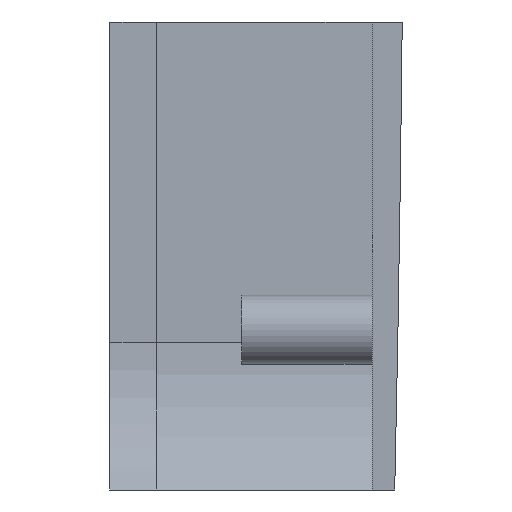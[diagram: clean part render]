
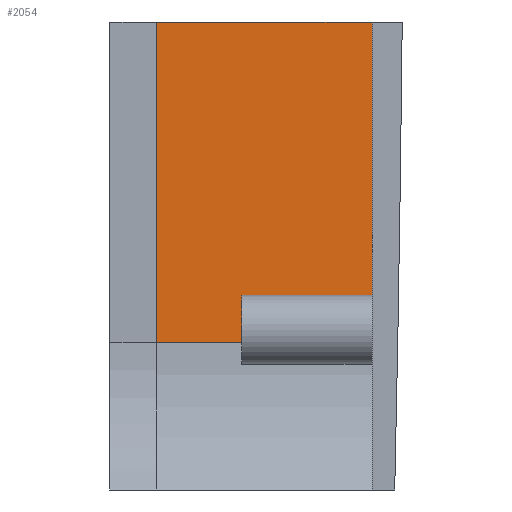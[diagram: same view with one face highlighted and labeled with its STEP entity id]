
A CAD part, left-side view. The second image highlights one B-rep face of the part: STEP entity #2054.
In plain terms, the highlighted planar face has unit normal (-1, 0, 0).
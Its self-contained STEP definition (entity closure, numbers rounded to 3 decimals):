
#144 = PLANE('',#145);
#145 = AXIS2_PLACEMENT_3D('',#146,#147,#148);
#146 = CARTESIAN_POINT('',(36.,-30.,-29.));
#147 = DIRECTION('',(0.,0.,1.));
#148 = DIRECTION('',(1.,0.,0.));
#549 = PLANE('',#550);
#550 = AXIS2_PLACEMENT_3D('',#551,#552,#553);
#551 = CARTESIAN_POINT('',(0.,-4.7,0.));
#552 = DIRECTION('',(0.,-1.,0.));
#553 = DIRECTION('',(1.,0.,0.));
#575 = CYLINDRICAL_SURFACE('',#576,17.2);
#576 = AXIS2_PLACEMENT_3D('',#577,#578,#579);
#577 = CARTESIAN_POINT('',(34.,-3.2,-55.));
#578 = DIRECTION('',(0.,1.,0.));
#579 = DIRECTION('',(1.,0.,0.));
#599 = PLANE('',#600);
#600 = AXIS2_PLACEMENT_3D('',#601,#602,#603);
#601 = CARTESIAN_POINT('',(-150.,-22.2,-200.));
#602 = DIRECTION('',(0.,1.,0.));
#603 = DIRECTION('',(0.,0.,1.));
#993 = VERTEX_POINT('',#994);
#994 = CARTESIAN_POINT('',(51.2,-4.7,-29.));
#1013 = EDGE_CURVE('',#1014,#993,#1016,.T.);
#1014 = VERTEX_POINT('',#1015);
#1015 = CARTESIAN_POINT('',(51.2,-22.2,-29.));
#1016 = SURFACE_CURVE('',#1017,(#1021,#1027),.PCURVE_S1.);
#1017 = LINE('',#1018,#1019);
#1018 = CARTESIAN_POINT('',(51.2,-16.6,-29.));
#1019 = VECTOR('',#1020,1.);
#1020 = DIRECTION('',(0.,1.,-0.));
#1021 = PCURVE('',#144,#1022);
#1022 = DEFINITIONAL_REPRESENTATION('',(#1023),#1026);
#1023 = B_SPLINE_CURVE_WITH_KNOTS('',1,(#1024,#1025),.UNSPECIFIED.,.F.,
  .F.,(2,2),(-5.6,11.9),.PIECEWISE_BEZIER_KNOTS.);
#1024 = CARTESIAN_POINT('',(15.2,7.8));
#1025 = CARTESIAN_POINT('',(15.2,25.3));
#1026 = ( GEOMETRIC_REPRESENTATION_CONTEXT(2) 
PARAMETRIC_REPRESENTATION_CONTEXT() REPRESENTATION_CONTEXT('2D SPACE',''
  ) );
#1027 = PCURVE('',#1028,#1033);
#1028 = PLANE('',#1029);
#1029 = AXIS2_PLACEMENT_3D('',#1030,#1031,#1032);
#1030 = CARTESIAN_POINT('',(51.2,-3.2,-55.));
#1031 = DIRECTION('',(-1.,0.,0.));
#1032 = DIRECTION('',(0.,0.,1.));
#1033 = DEFINITIONAL_REPRESENTATION('',(#1034),#1037);
#1034 = B_SPLINE_CURVE_WITH_KNOTS('',1,(#1035,#1036),.UNSPECIFIED.,.F.,
  .F.,(2,2),(-5.6,11.9),.PIECEWISE_BEZIER_KNOTS.);
#1035 = CARTESIAN_POINT('',(26.,-19.));
#1036 = CARTESIAN_POINT('',(26.,-1.5));
#1037 = ( GEOMETRIC_REPRESENTATION_CONTEXT(2) 
PARAMETRIC_REPRESENTATION_CONTEXT() REPRESENTATION_CONTEXT('2D SPACE',''
  ) );
#1462 = VERTEX_POINT('',#1463);
#1463 = CARTESIAN_POINT('',(51.2,-22.2,-55.));
#1488 = EDGE_CURVE('',#1462,#1014,#1489,.T.);
#1489 = SURFACE_CURVE('',#1490,(#1494,#1501),.PCURVE_S1.);
#1490 = LINE('',#1491,#1492);
#1491 = CARTESIAN_POINT('',(51.2,-22.2,-127.5));
#1492 = VECTOR('',#1493,1.);
#1493 = DIRECTION('',(0.,0.,1.));
#1494 = PCURVE('',#599,#1495);
#1495 = DEFINITIONAL_REPRESENTATION('',(#1496),#1500);
#1496 = LINE('',#1497,#1498);
#1497 = CARTESIAN_POINT('',(72.5,201.2));
#1498 = VECTOR('',#1499,1.);
#1499 = DIRECTION('',(1.,0.));
#1500 = ( GEOMETRIC_REPRESENTATION_CONTEXT(2) 
PARAMETRIC_REPRESENTATION_CONTEXT() REPRESENTATION_CONTEXT('2D SPACE',''
  ) );
#1501 = PCURVE('',#1028,#1502);
#1502 = DEFINITIONAL_REPRESENTATION('',(#1503),#1507);
#1503 = LINE('',#1504,#1505);
#1504 = CARTESIAN_POINT('',(-72.5,-19.));
#1505 = VECTOR('',#1506,1.);
#1506 = DIRECTION('',(1.,0.));
#1507 = ( GEOMETRIC_REPRESENTATION_CONTEXT(2) 
PARAMETRIC_REPRESENTATION_CONTEXT() REPRESENTATION_CONTEXT('2D SPACE',''
  ) );
#1547 = EDGE_CURVE('',#1548,#1462,#1550,.T.);
#1548 = VERTEX_POINT('',#1549);
#1549 = CARTESIAN_POINT('',(51.2,-4.7,-55.));
#1550 = SURFACE_CURVE('',#1551,(#1555,#1562),.PCURVE_S1.);
#1551 = LINE('',#1552,#1553);
#1552 = CARTESIAN_POINT('',(51.2,-3.2,-55.));
#1553 = VECTOR('',#1554,1.);
#1554 = DIRECTION('',(0.,-1.,0.));
#1555 = PCURVE('',#575,#1556);
#1556 = DEFINITIONAL_REPRESENTATION('',(#1557),#1561);
#1557 = LINE('',#1558,#1559);
#1558 = CARTESIAN_POINT('',(0.,0.));
#1559 = VECTOR('',#1560,1.);
#1560 = DIRECTION('',(-0.,-1.));
#1561 = ( GEOMETRIC_REPRESENTATION_CONTEXT(2) 
PARAMETRIC_REPRESENTATION_CONTEXT() REPRESENTATION_CONTEXT('2D SPACE',''
  ) );
#1562 = PCURVE('',#1028,#1563);
#1563 = DEFINITIONAL_REPRESENTATION('',(#1564),#1568);
#1564 = LINE('',#1565,#1566);
#1565 = CARTESIAN_POINT('',(0.,0.));
#1566 = VECTOR('',#1567,1.);
#1567 = DIRECTION('',(0.,-1.));
#1568 = ( GEOMETRIC_REPRESENTATION_CONTEXT(2) 
PARAMETRIC_REPRESENTATION_CONTEXT() REPRESENTATION_CONTEXT('2D SPACE',''
  ) );
#1631 = EDGE_CURVE('',#1548,#993,#1632,.T.);
#1632 = SURFACE_CURVE('',#1633,(#1637,#1644),.PCURVE_S1.);
#1633 = LINE('',#1634,#1635);
#1634 = CARTESIAN_POINT('',(51.2,-4.7,-27.5));
#1635 = VECTOR('',#1636,1.);
#1636 = DIRECTION('',(0.,0.,1.));
#1637 = PCURVE('',#549,#1638);
#1638 = DEFINITIONAL_REPRESENTATION('',(#1639),#1643);
#1639 = LINE('',#1640,#1641);
#1640 = CARTESIAN_POINT('',(51.2,-27.5));
#1641 = VECTOR('',#1642,1.);
#1642 = DIRECTION('',(0.,1.));
#1643 = ( GEOMETRIC_REPRESENTATION_CONTEXT(2) 
PARAMETRIC_REPRESENTATION_CONTEXT() REPRESENTATION_CONTEXT('2D SPACE',''
  ) );
#1644 = PCURVE('',#1028,#1645);
#1645 = DEFINITIONAL_REPRESENTATION('',(#1646),#1650);
#1646 = LINE('',#1647,#1648);
#1647 = CARTESIAN_POINT('',(27.5,-1.5));
#1648 = VECTOR('',#1649,1.);
#1649 = DIRECTION('',(1.,0.));
#1650 = ( GEOMETRIC_REPRESENTATION_CONTEXT(2) 
PARAMETRIC_REPRESENTATION_CONTEXT() REPRESENTATION_CONTEXT('2D SPACE',''
  ) );
#2054 = ADVANCED_FACE('',(#2055),#1028,.T.);
#2055 = FACE_BOUND('',#2056,.T.);
#2056 = EDGE_LOOP('',(#2057,#2058,#2059,#2060));
#2057 = ORIENTED_EDGE('',*,*,#1631,.F.);
#2058 = ORIENTED_EDGE('',*,*,#1547,.T.);
#2059 = ORIENTED_EDGE('',*,*,#1488,.T.);
#2060 = ORIENTED_EDGE('',*,*,#1013,.T.);
